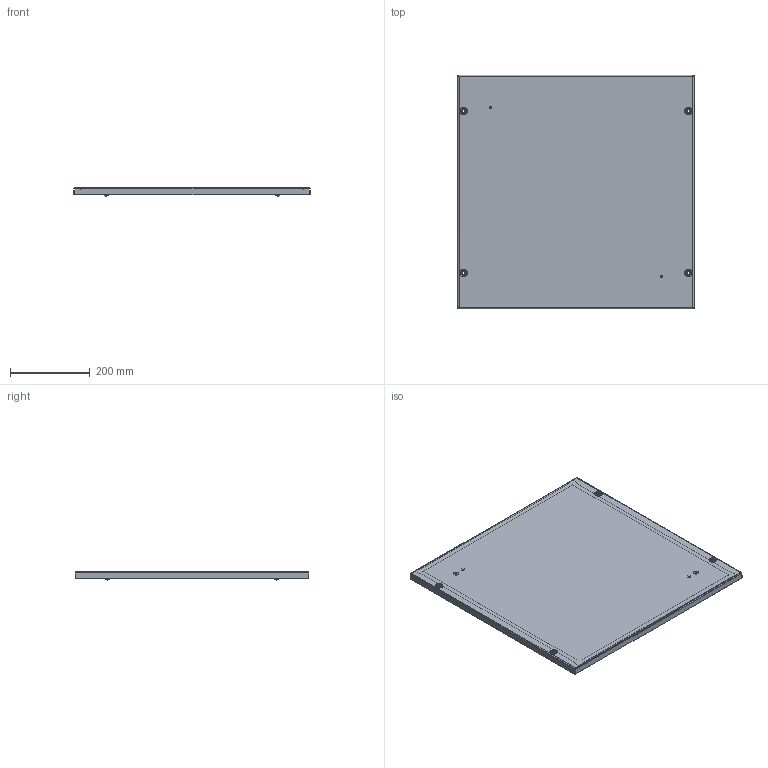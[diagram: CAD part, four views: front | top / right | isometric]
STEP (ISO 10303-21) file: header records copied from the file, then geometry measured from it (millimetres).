
FILE_DESCRIPTION (( 'STEP AP203' ), '1' );
FILE_NAME ('98460.step', '2013-04-03T10:55:26', ( '' ), ( '' ), 'SwSTEP 2.0', 'SolidWorks 2010', '' );
FILE_SCHEMA (( 'CONFIG_CONTROL_DESIGN' ));
Length unit declared in the file: inch
Products named in the file (7): 89064969; 89064970_FIP GASKET; 98460; 89064968; 60100041_60100041; 87931527_87931527; 87931368_SLEEVE
Assembly tree (7 placements, depth 4):
  98460
    89064969
      60100041_60100041  x2
        87931368_SLEEVE
        87931527_87931527
      89064968
      89064970_FIP GASKET
Bounding box: 591.79 x 585.7 x 23.2 mm (x, y, z)
Volume: 638996.7 mm3; surface area: 834845.5 mm2
Topology: 6 solids, 6 shells, 281 faces, 642 edges, 392 vertices
Faces by surface type: plane 141, cylinder 72, torus 32, cone 28, bspline 8
Entity records: 7230 total; most frequent: CARTESIAN_POINT 1498, DIRECTION 1071, ORIENTED_EDGE 990, EDGE_CURVE 495, AXIS2_PLACEMENT_3D 393, VERTEX_POINT 304, LINE 285, VECTOR 285
